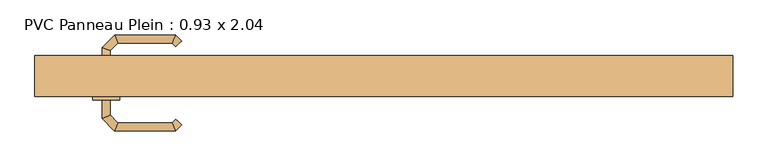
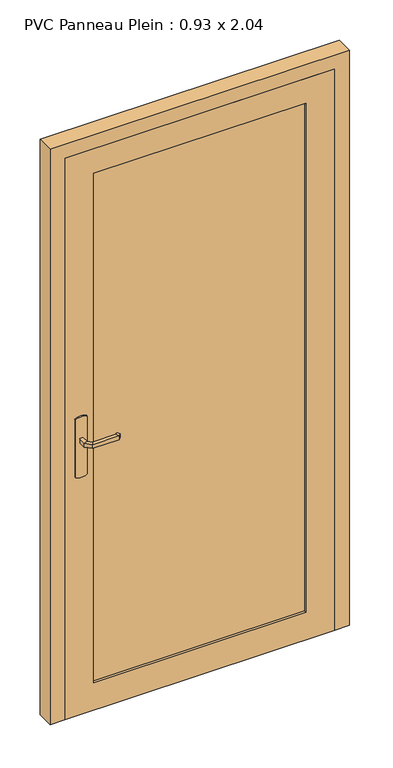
"""IFC4 building model written with IfcOpenShell, lengths in millimetres: door geometry, PVC Panneau Plein : 0.93 x 2.04."""

from ifc_helpers import new_model, si_unit, point, frame, frame_2d, origin, place, context, project, spatial, polyline, circle_curve, ellipse_curve, trimmed, segment, composite_curve, outline, extrude, faceted_brep, source, transform, mapped, element, save
from ifc_brep_helpers import plane_surface, cylinder_surface, advanced_brep


def pvc_panneau_plein_0_93_x_2_04_d98bbb1e(model_context):
    return source(origin(), model_context, "Body", "SolidModel", [
        advanced_brep(
        [(-404.0, -58.7935702, 993.0), (-404.0, -58.7935702, 1007.0), (-416.0, -58.7935702, 1007.0), (-416.0, -58.7935702, 993.0), (-404.0, -36.3083657, 993.0), (-404.0, -36.3083657, 1007.0), (-416.0, -31.337803, 1007.0), (-416.0, -31.337803, 993.0), (-392.5147186, -24.8230843, 993.0), (-392.5147186, -24.8230843, 1007.0), (-397.4852814, -12.8230843, 1007.0), (-397.4852814, -12.8230843, 993.0), (-312.4394977, -24.8230843, 993.0), (-312.4394977, -24.8230843, 1007.0), (-307.468935, -12.8230843, 1007.0), (-307.468935, -12.8230843, 993.0), (-307.1257892, -30.1367928, 993.0), (-298.6405078, -21.6515115, 993.0), (-298.6405078, -21.6515115, 1007.0), (-307.1257892, -30.1367928, 1007.0)],
        [
            (0, 1),
            (1, 2, circle_curve(frame((-410.0, -58.7935702, 986.9542278), z_axis=(0.0, -1.0, 0.0), x_axis=(-1.0, 0.0, 0.0)), 20.9244589)),
            (2, 3),
            (3, 0, circle_curve(frame((-410.0, -58.7935702, 1013.0457722), z_axis=(0.0, -1.0, 0.0), x_axis=(-1.0, 0.0, 0.0)), 20.9244589)),
            (0, 4),
            (4, 5),
            (5, 1),
            (5, 6, ellipse_curve(frame((-410.0, -33.8230843, 986.9542278), z_axis=(-0.38268343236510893, -0.9238795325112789, 0.0), x_axis=(0.9238795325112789, -0.3826834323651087, 0.0)), 22.6484711, 20.9244589)),
            (6, 2),
            (6, 7),
            (7, 3),
            (7, 4, ellipse_curve(frame((-410.0, -33.8230843, 1013.0457722), z_axis=(-0.38268343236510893, -0.9238795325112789, 0.0), x_axis=(0.9238795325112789, -0.3826834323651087, 0.0)), 22.6484711, 20.9244589)),
            (4, 8),
            (8, 9),
            (9, 5),
            (9, 10, ellipse_curve(frame((-395.0, -18.8230843, 986.9542278), z_axis=(-0.9238795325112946, -0.38268343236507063, 0.0), x_axis=(0.3826834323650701, -0.9238795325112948, 0.0)), 22.6484711, 20.9244589)),
            (10, 6),
            (10, 11),
            (11, 7),
            (11, 8, ellipse_curve(frame((-395.0, -18.8230843, 1013.0457722), z_axis=(-0.9238795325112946, -0.38268343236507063, 0.0), x_axis=(0.3826834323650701, -0.9238795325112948, 0.0)), 22.6484711, 20.9244589)),
            (8, 12),
            (12, 13),
            (13, 9),
            (13, 14, ellipse_curve(frame((-309.9542163, -18.8230843, 986.9542278), z_axis=(-0.9238795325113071, 0.38268343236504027, 0.0), x_axis=(-0.38268343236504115, -0.9238795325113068, 0.0)), 22.6484711, 20.9244589)),
            (14, 10),
            (14, 15),
            (15, 11),
            (15, 12, ellipse_curve(frame((-309.9542163, -18.8230843, 1013.0457722), z_axis=(-0.9238795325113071, 0.38268343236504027, 0.0), x_axis=(-0.38268343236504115, -0.9238795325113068, 0.0)), 22.6484711, 20.9244589)),
            (16, 17, circle_curve(frame((-302.8831485, -25.8941521, 1013.0457722), z_axis=(0.7071067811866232, -0.7071067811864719, 0.0), x_axis=(0.7071067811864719, 0.7071067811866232, 0.0)), 20.9244589)),
            (17, 18),
            (18, 19, circle_curve(frame((-302.8831485, -25.8941521, 986.9542278), z_axis=(0.7071067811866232, -0.7071067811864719, 0.0), x_axis=(0.7071067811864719, 0.7071067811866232, 0.0)), 20.9244589)),
            (19, 16),
            (12, 16),
            (19, 13),
            (18, 14),
            (17, 15),
        ],
        [
            plane_surface(frame((-419.2195445, -58.7935702, 1000.0), z_axis=(0.0, -1.0, 0.0), x_axis=(0.0, 0.0, 1.0))),
            plane_surface(frame((-404.0, -58.7935702, 993.0), z_axis=(1.0, 0.0, 0.0), x_axis=(0.0, 1.0, 0.0))),
            cylinder_surface(frame((-410.0, -58.7935702, 986.9542278), z_axis=(0.0, -1.0, 0.0), x_axis=(-1.0, 0.0, 0.0)), 20.9244589),
            plane_surface(frame((-416.0, -58.7935702, 1007.0), z_axis=(-1.0, 0.0, 0.0), x_axis=(0.0, 1.0, 0.0))),
            cylinder_surface(frame((-410.0, -58.7935702, 1013.0457722), z_axis=(0.0, -1.0, 0.0), x_axis=(-1.0, 0.0, 0.0)), 20.9244589),
            plane_surface(frame((-404.0, -36.3083657, 993.0), z_axis=(0.707106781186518, -0.707106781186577, 0.0), x_axis=(0.707106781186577, 0.707106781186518, 0.0))),
            cylinder_surface(frame((-410.0, -33.8230843, 986.9542278), z_axis=(-0.7071067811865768, -0.7071067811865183, 0.0), x_axis=(-0.7071067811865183, 0.7071067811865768, 0.0)), 20.9244589),
            plane_surface(frame((-416.0, -31.337803, 1007.0), z_axis=(-0.7071067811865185, 0.7071067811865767, 0.0), x_axis=(0.7071067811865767, 0.7071067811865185, 0.0))),
            cylinder_surface(frame((-410.0, -33.8230843, 1013.0457722), z_axis=(-0.7071067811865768, -0.7071067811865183, 0.0), x_axis=(-0.7071067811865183, 0.7071067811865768, 0.0)), 20.9244589),
            plane_surface(frame((-392.5147186, -24.8230843, 993.0), z_axis=(0.0, -1.0, 0.0), x_axis=(1.0, 0.0, 0.0))),
            cylinder_surface(frame((-395.0, -18.8230843, 986.9542278), z_axis=(-1.0, 0.0, 0.0), x_axis=(0.0, 1.0, 0.0)), 20.9244589),
            plane_surface(frame((-397.4852814, -12.8230843, 1007.0), z_axis=(0.0, 1.0, 0.0), x_axis=(1.0, 0.0, 0.0))),
            cylinder_surface(frame((-395.0, -18.8230843, 1013.0457722), z_axis=(-1.0, 0.0, 0.0), x_axis=(0.0, 1.0, 0.0)), 20.9244589),
            plane_surface(frame((-302.8831485, -25.8941521, 990.7804555), z_axis=(0.7071067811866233, -0.7071067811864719, 0.0), x_axis=(0.7071067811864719, 0.7071067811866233, 0.0))),
            plane_surface(frame((-312.4394977, -24.8230843, 993.0), z_axis=(-0.707106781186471, -0.7071067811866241, 0.0), x_axis=(0.7071067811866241, -0.707106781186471, 0.0))),
            cylinder_surface(frame((-309.9542163, -18.8230843, 986.9542278), z_axis=(-0.7071067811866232, 0.7071067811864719, 0.0), x_axis=(0.7071067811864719, 0.7071067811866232, 0.0)), 20.9244589),
            plane_surface(frame((-307.468935, -12.8230843, 1007.0), z_axis=(0.7071067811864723, 0.7071067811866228, 0.0), x_axis=(0.7071067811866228, -0.7071067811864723, 0.0))),
            cylinder_surface(frame((-309.9542163, -18.8230843, 1013.0457722), z_axis=(-0.7071067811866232, 0.7071067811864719, 0.0), x_axis=(0.7071067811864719, 0.7071067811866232, 0.0)), 20.9244589),
        ],
        [
            (0, [[1, 2, 3, 4]]),
            (1, [[-1, 5, 6, 7]]),
            (2, [[-2, -7, 8, 9]]),
            (3, [[-3, -9, 10, 11]]),
            (4, [[-4, -11, 12, -5]]),
            (5, [[-6, 13, 14, 15]]),
            (6, [[-8, -15, 16, 17]]),
            (7, [[-10, -17, 18, 19]]),
            (8, [[-12, -19, 20, -13]]),
            (9, [[-14, 21, 22, 23]]),
            (10, [[-16, -23, 24, 25]]),
            (11, [[-18, -25, 26, 27]]),
            (12, [[-20, -27, 28, -21]]),
            (13, [[29, 30, 31, 32]]),
            (14, [[-22, 33, -32, 34]]),
            (15, [[-24, -34, -31, 35]]),
            (16, [[-26, -35, -30, 36]]),
            (17, [[-28, -36, -29, -33]]),
        ],
    ),
        advanced_brep(
        [(-416.0, -108.7935702, 1007.0), (-404.0, -108.7935702, 1007.0), (-404.0, -108.7935702, 993.0), (-416.0, -108.7935702, 993.0), (-416.0, -136.4445209, 1007.0), (-404.0, -131.4739582, 1007.0), (-404.0, -131.4739582, 993.0), (-416.0, -136.4445209, 993.0), (-397.62279, -154.8217309, 1007.0), (-392.6522273, -142.8217309, 1007.0), (-392.6522273, -142.8217309, 993.0), (-397.62279, -154.8217309, 993.0), (-307.496078, -154.8217309, 1007.0), (-312.4666408, -142.8217309, 1007.0), (-312.4666408, -142.8217309, 993.0), (-307.496078, -154.8217309, 993.0), (-298.6676509, -145.9933038, 1007.0), (-298.6676509, -145.9933038, 993.0), (-307.1529323, -137.5080224, 993.0), (-307.1529323, -137.5080224, 1007.0)],
        [
            (0, 1, circle_curve(frame((-410.0, -108.7935702, 986.9542278), z_axis=(0.0, 1.0, 0.0), x_axis=(1.0, 0.0, 0.0)), 20.9244589)),
            (1, 2),
            (2, 3, circle_curve(frame((-410.0, -108.7935702, 1013.0457722), z_axis=(0.0, 1.0, 0.0), x_axis=(1.0, 0.0, 0.0)), 20.9244589)),
            (3, 0),
            (0, 4),
            (4, 5, ellipse_curve(frame((-410.0, -133.9592395, 986.9542278), z_axis=(-0.3826834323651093, 0.9238795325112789, 0.0), x_axis=(0.9238795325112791, 0.38268343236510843, 0.0)), 22.6484711, 20.9244589)),
            (5, 1),
            (5, 6),
            (6, 2),
            (6, 7, ellipse_curve(frame((-410.0, -133.9592395, 1013.0457722), z_axis=(-0.3826834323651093, 0.9238795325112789, 0.0), x_axis=(0.9238795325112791, 0.38268343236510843, 0.0)), 22.6484711, 20.9244589)),
            (7, 3),
            (7, 4),
            (4, 8),
            (8, 9, ellipse_curve(frame((-395.1375086, -148.8217309, 986.9542278), z_axis=(-0.9238795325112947, 0.38268343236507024, 0.0), x_axis=(0.3826834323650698, 0.9238795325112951, 0.0)), 22.6484711, 20.9244589)),
            (9, 5),
            (9, 10),
            (10, 6),
            (10, 11, ellipse_curve(frame((-395.1375086, -148.8217309, 1013.0457722), z_axis=(-0.9238795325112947, 0.38268343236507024, 0.0), x_axis=(0.3826834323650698, 0.9238795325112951, 0.0)), 22.6484711, 20.9244589)),
            (11, 7),
            (11, 8),
            (8, 12),
            (12, 13, ellipse_curve(frame((-309.9813594, -148.8217309, 986.9542278), z_axis=(-0.9238795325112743, -0.3826834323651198, 0.0), x_axis=(-0.38268343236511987, 0.9238795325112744, 0.0)), 22.6484711, 20.9244589)),
            (13, 9),
            (13, 14),
            (14, 10),
            (14, 15, ellipse_curve(frame((-309.9813594, -148.8217309, 1013.0457722), z_axis=(-0.9238795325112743, -0.3826834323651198, 0.0), x_axis=(-0.38268343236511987, 0.9238795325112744, 0.0)), 22.6484711, 20.9244589)),
            (15, 11),
            (15, 12),
            (16, 17),
            (17, 18, circle_curve(frame((-302.9102916, -141.7506631, 1013.0457722), z_axis=(0.7071067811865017, 0.7071067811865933, 0.0), x_axis=(-0.7071067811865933, 0.7071067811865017, 0.0)), 20.9244589)),
            (18, 19),
            (19, 16, circle_curve(frame((-302.9102916, -141.7506631, 986.9542278), z_axis=(0.7071067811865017, 0.7071067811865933, 0.0), x_axis=(-0.7071067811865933, 0.7071067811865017, 0.0)), 20.9244589)),
            (12, 16),
            (19, 13),
            (18, 14),
            (17, 15),
        ],
        [
            plane_surface(frame((-419.2195445, -108.7935702, 1000.0), z_axis=(0.0, 1.0, 0.0), x_axis=(0.0, 0.0, -1.0))),
            cylinder_surface(frame((-410.0, -108.7935702, 986.9542278), z_axis=(0.0, 1.0, 0.0), x_axis=(1.0, 0.0, 0.0)), 20.9244589),
            plane_surface(frame((-404.0, -108.7935702, 1007.0), z_axis=(1.0, 0.0, 0.0), x_axis=(0.0, -1.0, 0.0))),
            cylinder_surface(frame((-410.0, -108.7935702, 1013.0457722), z_axis=(0.0, 1.0, 0.0), x_axis=(1.0, 0.0, 0.0)), 20.9244589),
            plane_surface(frame((-416.0, -108.7935702, 993.0), z_axis=(-1.0, 0.0, 0.0), x_axis=(0.0, -1.0, 0.0))),
            cylinder_surface(frame((-410.0, -133.9592395, 986.9542278), z_axis=(-0.7071067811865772, 0.7071067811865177, 0.0), x_axis=(0.7071067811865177, 0.7071067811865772, 0.0)), 20.9244589),
            plane_surface(frame((-404.0, -131.4739582, 1007.0), z_axis=(0.7071067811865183, 0.7071067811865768, 0.0), x_axis=(0.7071067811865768, -0.7071067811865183, 0.0))),
            cylinder_surface(frame((-410.0, -133.9592395, 1013.0457722), z_axis=(-0.7071067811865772, 0.7071067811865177, 0.0), x_axis=(0.7071067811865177, 0.7071067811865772, 0.0)), 20.9244589),
            plane_surface(frame((-416.0, -136.4445209, 993.0), z_axis=(-0.707106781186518, -0.707106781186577, 0.0), x_axis=(0.707106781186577, -0.707106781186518, 0.0))),
            cylinder_surface(frame((-395.1375086, -148.8217309, 986.9542278), z_axis=(-1.0, 0.0, 0.0), x_axis=(0.0, 1.0, 0.0)), 20.9244589),
            plane_surface(frame((-392.6522273, -142.8217309, 1007.0), z_axis=(0.0, 1.0, 0.0), x_axis=(1.0, 0.0, 0.0))),
            cylinder_surface(frame((-395.1375086, -148.8217309, 1013.0457722), z_axis=(-1.0, 0.0, 0.0), x_axis=(0.0, 1.0, 0.0)), 20.9244589),
            plane_surface(frame((-397.62279, -154.8217309, 993.0), z_axis=(0.0, -1.0, 0.0), x_axis=(1.0, 0.0, 0.0))),
            plane_surface(frame((-302.9102916, -141.7506631, 1009.2195445), z_axis=(0.7071067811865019, 0.7071067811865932, 0.0), x_axis=(0.7071067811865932, -0.7071067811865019, 0.0))),
            cylinder_surface(frame((-309.9813594, -148.8217309, 986.9542278), z_axis=(-0.7071067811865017, -0.7071067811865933, 0.0), x_axis=(-0.7071067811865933, 0.7071067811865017, 0.0)), 20.9244589),
            plane_surface(frame((-312.4666408, -142.8217309, 1007.0), z_axis=(-0.7071067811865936, 0.7071067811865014, 0.0), x_axis=(0.7071067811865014, 0.7071067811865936, 0.0))),
            cylinder_surface(frame((-309.9813594, -148.8217309, 1013.0457722), z_axis=(-0.7071067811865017, -0.7071067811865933, 0.0), x_axis=(-0.7071067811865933, 0.7071067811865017, 0.0)), 20.9244589),
            plane_surface(frame((-307.496078, -154.8217309, 993.0), z_axis=(0.707106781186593, -0.7071067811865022, 0.0), x_axis=(0.7071067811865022, 0.707106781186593, 0.0))),
        ],
        [
            (0, [[1, 2, 3, 4]]),
            (1, [[-1, 5, 6, 7]]),
            (2, [[-2, -7, 8, 9]]),
            (3, [[-3, -9, 10, 11]]),
            (4, [[-4, -11, 12, -5]]),
            (5, [[-6, 13, 14, 15]]),
            (6, [[-8, -15, 16, 17]]),
            (7, [[-10, -17, 18, 19]]),
            (8, [[-12, -19, 20, -13]]),
            (9, [[-14, 21, 22, 23]]),
            (10, [[-16, -23, 24, 25]]),
            (11, [[-18, -25, 26, 27]]),
            (12, [[-20, -27, 28, -21]]),
            (13, [[29, 30, 31, 32]]),
            (14, [[-22, 33, -32, 34]]),
            (15, [[-24, -34, -31, 35]]),
            (16, [[-26, -35, -30, 36]]),
            (17, [[-28, -36, -29, -33]]),
        ],
    ),
        extrude(outline(composite_curve([segment(trimmed(circle_curve(frame_2d((1045.3589838, -410.0)), 40.0), [point((1080.0, -390.0))], [point((1080.0, -430.0))], False, "CARTESIAN"), True, "CONTINUOUS"), segment(polyline([(1080.0, -430.0), (870.0, -430.0)]), True, "CONTINUOUS"), segment(trimmed(circle_curve(frame_2d((904.6410162, -410.0)), 40.0), [point((870.0, -430.0))], [point((870.0, -390.0))], False, "CARTESIAN"), True, "CONTINUOUS"), segment(polyline([(870.0, -390.0), (1080.0, -390.0)]), True, "CONTINUOUS")], self_intersect=False)), frame((0.0, -63.7935702, 0.0), z_axis=(0.0, 1.0, 0.0), x_axis=(0.0, 0.0, 1.0)), (0.0, 0.0, 1.0), 5.0),
        extrude(outline(composite_curve([segment(trimmed(circle_curve(frame_2d((904.6410162, -410.0)), 40.0), [point((870.0, -430.0))], [point((870.0, -390.0))], False, "CARTESIAN"), True, "CONTINUOUS"), segment(polyline([(870.0, -390.0), (1080.0, -390.0)]), True, "CONTINUOUS"), segment(trimmed(circle_curve(frame_2d((1045.3589838, -410.0)), 40.0), [point((1080.0, -390.0))], [point((1080.0, -430.0))], False, "CARTESIAN"), True, "CONTINUOUS"), segment(polyline([(1080.0, -430.0), (870.0, -430.0)]), True, "CONTINUOUS")], self_intersect=False)), frame((0.0, -108.7935702, 0.0), z_axis=(0.0, 1.0, 0.0), x_axis=(0.0, 0.0, 1.0)), (0.0, 0.0, 1.0), 5.0),
        faceted_brep([(-515.0, -103.7935702, 0.0), (-515.0, -43.7935702, 0.0), (-450.0, -43.7935702, 0.0), (-450.0, -63.7935702, 0.0), (-465.0, -63.7935702, 0.0), (-465.0, -103.7935702, 0.0), (-515.0, -103.7935702, 2090.0), (-515.0, -43.7935702, 2090.0), (515.0, -43.7935702, 2090.0), (515.0, -43.7935702, 0.0), (450.0, -43.7935702, 0.0), (450.0, -43.7935702, 2025.0), (-450.0, -43.7935702, 2025.0), (-450.0, -63.7935702, 2025.0), (450.0, -63.7935702, 2025.0), (450.0, -63.7935702, 0.0), (465.0, -63.7935702, 0.0), (465.0, -63.7935702, 2040.0), (-465.0, -63.7935702, 2040.0), (-465.0, -103.7935702, 2040.0), (465.0, -103.7935702, 2040.0), (465.0, -103.7935702, 0.0), (515.0, -103.7935702, 0.0), (515.0, -103.7935702, 2090.0)], [[[0, 1, 2, 3, 4, 5]], [[1, 0, 6, 7]], [[2, 1, 7, 8, 9, 10, 11, 12]], [[3, 2, 12, 13]], [[4, 3, 13, 14, 15, 16, 17, 18]], [[5, 4, 18, 19]], [[0, 5, 19, 20, 21, 22, 23, 6]], [[9, 8, 23, 22]], [[10, 9, 22, 21, 16, 15]], [[11, 10, 15, 14]], [[17, 16, 21, 20]], [[7, 6, 23, 8]], [[12, 11, 14, 13]], [[18, 17, 20, 19]]]),
        faceted_brep([(-465.0, -103.7935702, 2040.0), (-465.0, -103.7935702, 0.0), (465.0, -103.7935702, 0.0), (465.0, -103.7935702, 2040.0), (365.0, -103.7935702, 1950.0), (365.0, -103.7935702, 100.0), (-365.0, -103.7935702, 100.0), (-365.0, -103.7935702, 1950.0), (-465.0, -63.7935702, 2040.0), (465.0, -63.7935702, 2040.0), (465.0, -63.7935702, 0.0), (-465.0, -63.7935702, 0.0), (-365.0, -63.7935702, 1950.0), (-365.0, -63.7935702, 100.0), (365.0, -63.7935702, 100.0), (365.0, -63.7935702, 1950.0), (365.0, -95.7935702, 1950.0), (-365.0, -95.7935702, 1950.0), (-365.0, -95.7935702, 100.0), (365.0, -95.7935702, 100.0), (-365.0, -71.7935702, 1950.0), (365.0, -71.7935702, 1950.0), (365.0, -71.7935702, 100.0), (-365.0, -71.7935702, 100.0)], [[[0, 1, 2, 3], [4, 5, 6, 7]], [[8, 9, 10, 11], [12, 13, 14, 15]], [[1, 0, 8, 11]], [[2, 1, 11, 10]], [[3, 2, 10, 9]], [[0, 3, 9, 8]], [[16, 17, 18, 19]], [[16, 19, 5, 4]], [[19, 18, 6, 5]], [[18, 17, 7, 6]], [[17, 16, 4, 7]], [[20, 21, 22, 23]], [[20, 23, 13, 12]], [[23, 22, 14, 13]], [[22, 21, 15, 14]], [[21, 20, 12, 15]]]),
    ])


if __name__ == "__main__":
    model = new_model("IFC4")
    model_context = context("Model", 3, world=origin())
    ifc_project = project(units=[si_unit("LENGTHUNIT", "METRE", prefix="MILLI")], contexts=[model_context])
    site = spatial("IfcSite", under=ifc_project)
    building = spatial("IfcBuilding", under=site)
    placement = place(None, origin())
    pvc_panneau_plein_0_93_x_2_04_shape = pvc_panneau_plein_0_93_x_2_04_d98bbb1e(model_context)
    element("IfcDoor", 1, ObjectType="PVC Panneau Plein : 0.93 x 2.04", at=placement, inside=building, context=model_context, shape_type="MappedRepresentation", body=[
        mapped(pvc_panneau_plein_0_93_x_2_04_shape, transform((0.0, 0.0, 0.0), x_axis=(1.0, 0.0, 0.0), y_axis=(0.0, 1.0, 0.0), z_axis=(0.0, 0.0, 1.0))),
    ])
    save(model, "model.ifc")
